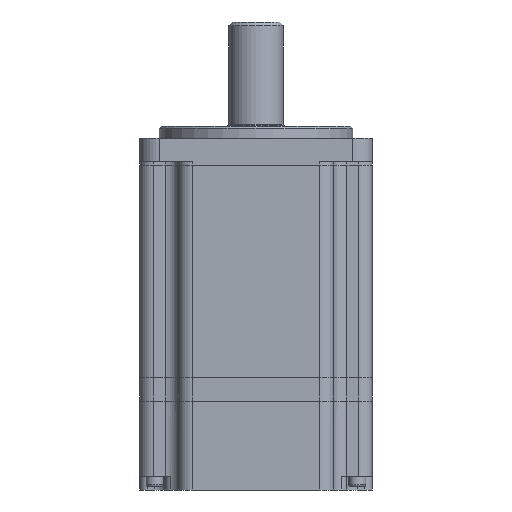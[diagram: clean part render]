
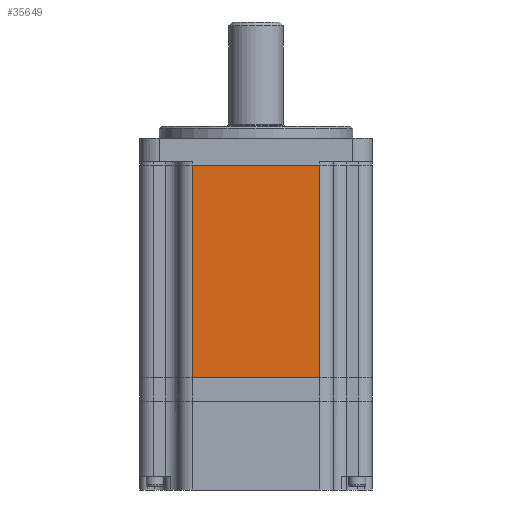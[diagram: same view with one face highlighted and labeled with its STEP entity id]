
A CAD part, front view. The second image highlights one B-rep face of the part: STEP entity #35649.
In plain terms, the highlighted planar face has unit normal (0, -1, 0).
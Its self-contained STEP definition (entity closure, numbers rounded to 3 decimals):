
#358 = CARTESIAN_POINT ( 'NONE',  ( 16.5, -30., -1. ) ) ;
#1291 = CARTESIAN_POINT ( 'NONE',  ( 16.5, -30., -56. ) ) ;
#1728 = DIRECTION ( 'NONE',  ( 0., 0., -1. ) ) ;
#1923 = DIRECTION ( 'NONE',  ( -1., 0., 0. ) ) ;
#2419 = ORIENTED_EDGE ( 'NONE', *, *, #3314, .F. ) ;
#2546 = VERTEX_POINT ( 'NONE', #34015 ) ;
#3314 = EDGE_CURVE ( 'NONE', #12996, #29712, #25933, .T. ) ;
#4262 = DIRECTION ( 'NONE',  ( 0., 0., 1. ) ) ;
#4675 = PLANE ( 'NONE',  #5615 ) ;
#5615 = AXIS2_PLACEMENT_3D ( 'NONE', #32078, #14036, #35109 ) ;
#8332 = FACE_OUTER_BOUND ( 'NONE', #15256, .T. ) ;
#9267 = ORIENTED_EDGE ( 'NONE', *, *, #21493, .T. ) ;
#9654 = VECTOR ( 'NONE', #4262, 1000. ) ;
#10874 = LINE ( 'NONE', #22951, #25951 ) ;
#12996 = VERTEX_POINT ( 'NONE', #23037 ) ;
#13389 = CARTESIAN_POINT ( 'NONE',  ( 20., -30., -56. ) ) ;
#14036 = DIRECTION ( 'NONE',  ( 0., 1., 0. ) ) ;
#15256 = EDGE_LOOP ( 'NONE', ( #2419, #9267, #29917, #17176 ) ) ;
#15474 = CARTESIAN_POINT ( 'NONE',  ( -16.5, -30., -56. ) ) ;
#16251 = VERTEX_POINT ( 'NONE', #358 ) ;
#16990 = VECTOR ( 'NONE', #34467, 1000. ) ;
#17176 = ORIENTED_EDGE ( 'NONE', *, *, #25561, .T. ) ;
#20138 = VECTOR ( 'NONE', #1728, 1000. ) ;
#21493 = EDGE_CURVE ( 'NONE', #12996, #16251, #31799, .T. ) ;
#22951 = CARTESIAN_POINT ( 'NONE',  ( 20., -30., -1. ) ) ;
#23037 = CARTESIAN_POINT ( 'NONE',  ( 16.5, -30., -56. ) ) ;
#25561 = EDGE_CURVE ( 'NONE', #2546, #29712, #28131, .T. ) ;
#25933 = LINE ( 'NONE', #13389, #16990 ) ;
#25951 = VECTOR ( 'NONE', #1923, 1000. ) ;
#28131 = LINE ( 'NONE', #37756, #20138 ) ;
#29432 = EDGE_CURVE ( 'NONE', #16251, #2546, #10874, .T. ) ;
#29712 = VERTEX_POINT ( 'NONE', #15474 ) ;
#29917 = ORIENTED_EDGE ( 'NONE', *, *, #29432, .T. ) ;
#31799 = LINE ( 'NONE', #1291, #9654 ) ;
#32078 = CARTESIAN_POINT ( 'NONE',  ( 20., -30., -56. ) ) ;
#34015 = CARTESIAN_POINT ( 'NONE',  ( -16.5, -30., -1. ) ) ;
#34467 = DIRECTION ( 'NONE',  ( -1., 0., 0. ) ) ;
#35109 = DIRECTION ( 'NONE',  ( 0., 0., 1. ) ) ;
#35649 = ADVANCED_FACE ( 'NONE', ( #8332 ), #4675, .F. ) ;
#37756 = CARTESIAN_POINT ( 'NONE',  ( -16.5, -30., -56. ) ) ;
